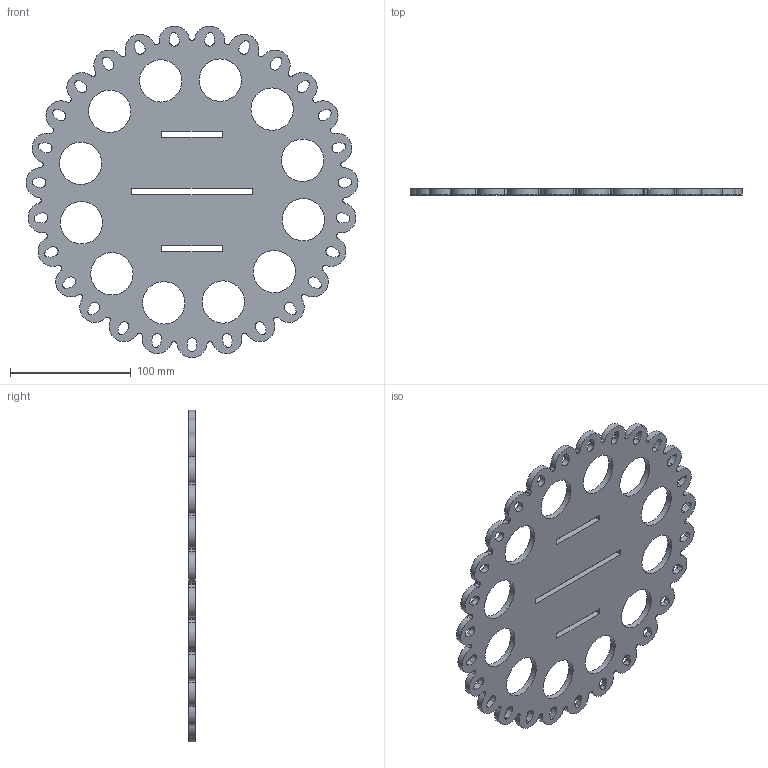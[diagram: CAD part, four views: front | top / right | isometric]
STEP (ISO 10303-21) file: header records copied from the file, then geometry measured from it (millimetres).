
FILE_DESCRIPTION(/* description */ (''),/* implementation_level */ '2;1');
FILE_NAME(/* name */ 'Z:\CAD Files\Development\Workspace\Easter Sale 24\EEH- Holder.stp',/* time_stamp */ '2024-02-29T10:32:27+11:00',/* author */ ('Tyler'),/* organization */ (''),/* preprocessor_version */ 'ST-DEVELOPER v17',/* originating_system */ 'Autodesk Inventor 2019',/* authorisation */ '');
FILE_SCHEMA (('AUTOMOTIVE_DESIGN { 1 0 10303 214 3 1 1 }'));
Length unit declared in the file: millimetre
Products named in the file (1): EEH- Holder
Bounding box: 274.53 x 5 x 274.14 mm (x, y, z)
Volume: 206932.8 mm3; surface area: 101565.6 mm2
Topology: 1 solids, 1 shells, 242 faces, 720 edges, 480 vertices
Faces by surface type: cylinder 228, plane 14
Full cylindrical faces by diameter (mm): 35 x12
Entity records: 8856 total; most frequent: DIRECTION 1662, CARTESIAN_POINT 1443, ORIENTED_EDGE 1440, EDGE_CURVE 720, AXIS2_PLACEMENT_3D 699, VERTEX_POINT 480, CIRCLE 456, EDGE_LOOP 326
